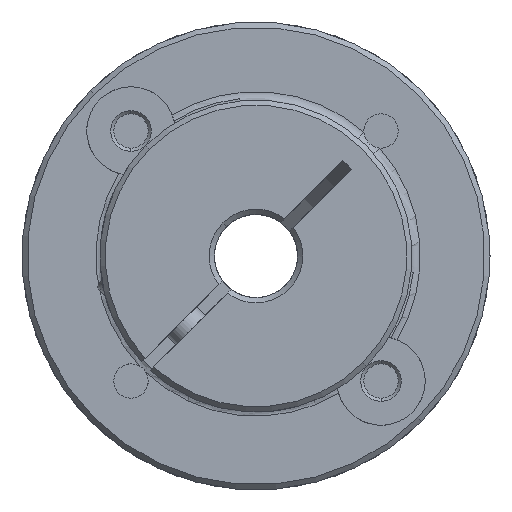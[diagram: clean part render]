
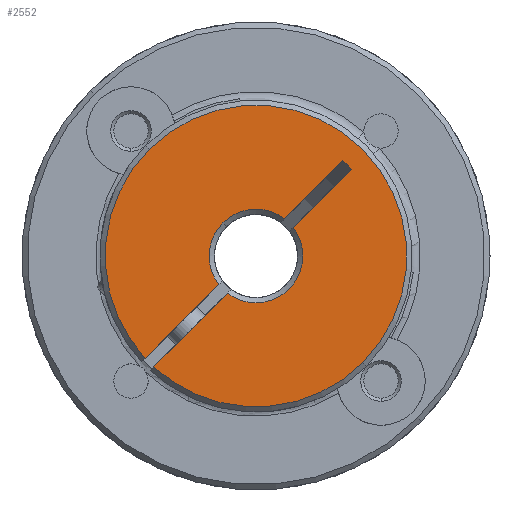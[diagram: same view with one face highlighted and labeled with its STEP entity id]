
A CAD part, front view. The second image highlights one B-rep face of the part: STEP entity #2552.
In plain terms, the highlighted planar face has unit normal (0, -1, 0).
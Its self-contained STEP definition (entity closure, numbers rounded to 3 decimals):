
#11 = ORIENTED_EDGE ( 'NONE', *, *, #5720, .T. ) ;
#118 = CIRCLE ( 'NONE', #7465, 4.5 ) ;
#136 = VECTOR ( 'NONE', #5328, 1000. ) ;
#319 = DIRECTION ( 'NONE',  ( -0.707, 0., 0.707 ) ) ;
#364 = VERTEX_POINT ( 'NONE', #4874 ) ;
#491 = CARTESIAN_POINT ( 'NONE',  ( -0.566, -24.141, 54.194 ) ) ;
#510 = CARTESIAN_POINT ( 'NONE',  ( 0.283, -24.141, 53.345 ) ) ;
#892 = VERTEX_POINT ( 'NONE', #4171 ) ;
#904 = CARTESIAN_POINT ( 'NONE',  ( -19.579, -24.141, 35.18 ) ) ;
#1250 = EDGE_CURVE ( 'NONE', #2752, #3849, #1783, .T. ) ;
#1376 = CARTESIAN_POINT ( 'NONE',  ( -12.093, -24.141, 48.182 ) ) ;
#1483 = AXIS2_PLACEMENT_3D ( 'NONE', #2807, #6006, #1643 ) ;
#1640 = CARTESIAN_POINT ( 'NONE',  ( -8.911, -24.141, 45. ) ) ;
#1643 = DIRECTION ( 'NONE',  ( -0.707, 0., 0.707 ) ) ;
#1710 = CIRCLE ( 'NONE', #1483, 14.5 ) ;
#1783 = CIRCLE ( 'NONE', #6038, 4.5 ) ;
#1932 = DIRECTION ( 'NONE',  ( 0., 1., 0. ) ) ;
#2061 = CARTESIAN_POINT ( 'NONE',  ( -8.911, -24.141, 45. ) ) ;
#2102 = VERTEX_POINT ( 'NONE', #904 ) ;
#2168 = LINE ( 'NONE', #2321, #3226 ) ;
#2195 = DIRECTION ( 'NONE',  ( 0.707, 0., 0.707 ) ) ;
#2255 = VERTEX_POINT ( 'NONE', #7853 ) ;
#2321 = CARTESIAN_POINT ( 'NONE',  ( -19.942, -24.141, 34.818 ) ) ;
#2345 = EDGE_LOOP ( 'NONE', ( #5753, #6149, #4864, #3382, #2863, #4299, #4528, #2660, #5684, #2957, #11 ) ) ;
#2490 = VERTEX_POINT ( 'NONE', #3033 ) ;
#2508 = DIRECTION ( 'NONE',  ( -0.707, 0., 0.707 ) ) ;
#2552 = ADVANCED_FACE ( 'NONE', ( #6656 ), #5793, .T. ) ;
#2660 = ORIENTED_EDGE ( 'NONE', *, *, #2806, .F. ) ;
#2752 = VERTEX_POINT ( 'NONE', #7219 ) ;
#2806 = EDGE_CURVE ( 'NONE', #2852, #2255, #5094, .T. ) ;
#2807 = CARTESIAN_POINT ( 'NONE',  ( -8.911, -24.141, 45. ) ) ;
#2852 = VERTEX_POINT ( 'NONE', #5445 ) ;
#2863 = ORIENTED_EDGE ( 'NONE', *, *, #7217, .F. ) ;
#2949 = LINE ( 'NONE', #4550, #4113 ) ;
#2957 = ORIENTED_EDGE ( 'NONE', *, *, #3029, .T. ) ;
#2977 = DIRECTION ( 'NONE',  ( -0.707, 0., 0.707 ) ) ;
#3029 = EDGE_CURVE ( 'NONE', #2490, #7025, #4486, .T. ) ;
#3033 = CARTESIAN_POINT ( 'NONE',  ( 1.342, -24.141, 34.747 ) ) ;
#3179 = EDGE_CURVE ( 'NONE', #892, #364, #2949, .T. ) ;
#3226 = VECTOR ( 'NONE', #6657, 1000. ) ;
#3382 = ORIENTED_EDGE ( 'NONE', *, *, #5252, .T. ) ;
#3783 = DIRECTION ( 'NONE',  ( -0.707, 0., 0.707 ) ) ;
#3794 = DIRECTION ( 'NONE',  ( 0., -1., 0. ) ) ;
#3814 = CARTESIAN_POINT ( 'NONE',  ( -19.942, -24.141, 34.818 ) ) ;
#3849 = VERTEX_POINT ( 'NONE', #1376 ) ;
#3955 = EDGE_CURVE ( 'NONE', #2102, #2752, #2168, .T. ) ;
#3973 = CARTESIAN_POINT ( 'NONE',  ( -8.911, -24.141, 45. ) ) ;
#4099 = CARTESIAN_POINT ( 'NONE',  ( -19.093, -24.141, 33.969 ) ) ;
#4101 = EDGE_CURVE ( 'NONE', #892, #2255, #118, .T. ) ;
#4113 = VECTOR ( 'NONE', #2195, 1000. ) ;
#4139 = DIRECTION ( 'NONE',  ( -0.707, 0., 0.707 ) ) ;
#4171 = CARTESIAN_POINT ( 'NONE',  ( -5.333, -24.141, 47.729 ) ) ;
#4273 = AXIS2_PLACEMENT_3D ( 'NONE', #2061, #3794, #7602 ) ;
#4299 = ORIENTED_EDGE ( 'NONE', *, *, #3179, .F. ) ;
#4486 = CIRCLE ( 'NONE', #7918, 14.5 ) ;
#4528 = ORIENTED_EDGE ( 'NONE', *, *, #4101, .T. ) ;
#4550 = CARTESIAN_POINT ( 'NONE',  ( -19.093, -24.141, 33.969 ) ) ;
#4766 = DIRECTION ( 'NONE',  ( 0., -1., 0. ) ) ;
#4864 = ORIENTED_EDGE ( 'NONE', *, *, #5779, .T. ) ;
#4874 = CARTESIAN_POINT ( 'NONE',  ( 0.283, -24.141, 53.345 ) ) ;
#5039 = CARTESIAN_POINT ( 'NONE',  ( -8.911, -24.141, 45. ) ) ;
#5061 = DIRECTION ( 'NONE',  ( 0., -1., 0. ) ) ;
#5094 = LINE ( 'NONE', #4099, #136 ) ;
#5101 = DIRECTION ( 'NONE',  ( 0.707, 0., 0.707 ) ) ;
#5252 = EDGE_CURVE ( 'NONE', #7449, #6386, #5569, .T. ) ;
#5273 = AXIS2_PLACEMENT_3D ( 'NONE', #1640, #4766, #319 ) ;
#5328 = DIRECTION ( 'NONE',  ( 0.707, 0., 0.707 ) ) ;
#5445 = CARTESIAN_POINT ( 'NONE',  ( -18.731, -24.141, 34.331 ) ) ;
#5569 = LINE ( 'NONE', #3814, #5977 ) ;
#5681 = AXIS2_PLACEMENT_3D ( 'NONE', #7365, #7336, #2977 ) ;
#5684 = ORIENTED_EDGE ( 'NONE', *, *, #7691, .T. ) ;
#5692 = CARTESIAN_POINT ( 'NONE',  ( -6.181, -24.141, 48.578 ) ) ;
#5720 = EDGE_CURVE ( 'NONE', #7025, #2102, #6093, .T. ) ;
#5753 = ORIENTED_EDGE ( 'NONE', *, *, #3955, .T. ) ;
#5779 = EDGE_CURVE ( 'NONE', #3849, #7449, #7368, .T. ) ;
#5793 = PLANE ( 'NONE',  #4273 ) ;
#5977 = VECTOR ( 'NONE', #5101, 1000. ) ;
#6006 = DIRECTION ( 'NONE',  ( 0., -1., 0. ) ) ;
#6038 = AXIS2_PLACEMENT_3D ( 'NONE', #3973, #7699, #6998 ) ;
#6093 = CIRCLE ( 'NONE', #5273, 14.5 ) ;
#6149 = ORIENTED_EDGE ( 'NONE', *, *, #1250, .T. ) ;
#6386 = VERTEX_POINT ( 'NONE', #491 ) ;
#6504 = CARTESIAN_POINT ( 'NONE',  ( -19.164, -24.141, 55.253 ) ) ;
#6656 = FACE_OUTER_BOUND ( 'NONE', #2345, .T. ) ;
#6657 = DIRECTION ( 'NONE',  ( 0.707, 0., 0.707 ) ) ;
#6975 = VECTOR ( 'NONE', #4139, 1000. ) ;
#6998 = DIRECTION ( 'NONE',  ( -0.707, 0., 0.707 ) ) ;
#7025 = VERTEX_POINT ( 'NONE', #6504 ) ;
#7217 = EDGE_CURVE ( 'NONE', #364, #6386, #7576, .T. ) ;
#7219 = CARTESIAN_POINT ( 'NONE',  ( -12.489, -24.141, 42.271 ) ) ;
#7336 = DIRECTION ( 'NONE',  ( 0., 1., 0. ) ) ;
#7365 = CARTESIAN_POINT ( 'NONE',  ( -8.911, -24.141, 45. ) ) ;
#7368 = CIRCLE ( 'NONE', #5681, 4.5 ) ;
#7449 = VERTEX_POINT ( 'NONE', #5692 ) ;
#7465 = AXIS2_PLACEMENT_3D ( 'NONE', #7529, #1932, #3783 ) ;
#7529 = CARTESIAN_POINT ( 'NONE',  ( -8.911, -24.141, 45. ) ) ;
#7576 = LINE ( 'NONE', #510, #6975 ) ;
#7602 = DIRECTION ( 'NONE',  ( -0.707, 0., 0.707 ) ) ;
#7691 = EDGE_CURVE ( 'NONE', #2852, #2490, #1710, .T. ) ;
#7699 = DIRECTION ( 'NONE',  ( 0., 1., 0. ) ) ;
#7853 = CARTESIAN_POINT ( 'NONE',  ( -11.64, -24.141, 41.422 ) ) ;
#7918 = AXIS2_PLACEMENT_3D ( 'NONE', #5039, #5061, #2508 ) ;
